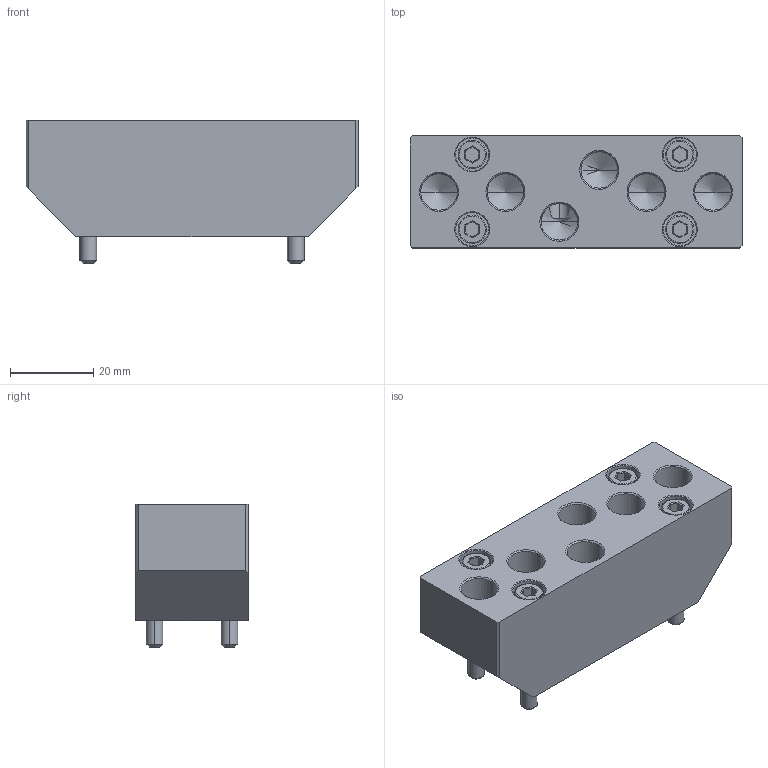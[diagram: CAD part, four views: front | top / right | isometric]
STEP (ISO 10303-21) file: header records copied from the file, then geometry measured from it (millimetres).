
FILE_DESCRIPTION (( 'STEP AP203' ), '1' );
FILE_NAME ('1QCAM-06G18G.STEP', '2024-03-14T08:02:09', ( '微软用户' ), ( '微软中国' ), 'SwSTEP 2.0', 'SolidWorks 2018', '' );
FILE_SCHEMA (( 'CONFIG_CONTROL_DESIGN' ));
Length unit declared in the file: millimetre
Products named in the file (1): 1QCAM-06G18G
Bounding box: 80 x 27 x 34.5 mm (x, y, z)
Volume: 47466.3 mm3; surface area: 17221.5 mm2
Topology: 1 solids, 1 shells, 224 faces, 519 edges, 308 vertices
Faces by surface type: plane 80, cone 76, cylinder 60, bspline 8
Entity records: 6727 total; most frequent: CARTESIAN_POINT 1560, DIRECTION 1110, ORIENTED_EDGE 1006, EDGE_CURVE 503, AXIS2_PLACEMENT_3D 412, VERTEX_POINT 308, LINE 286, VECTOR 286
